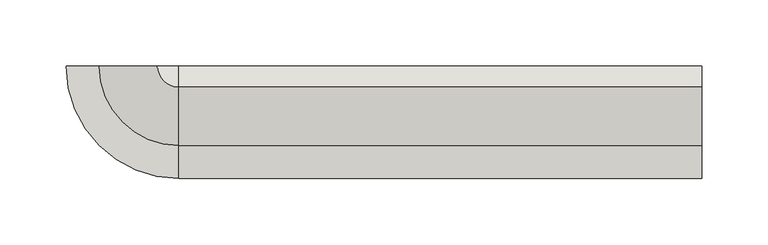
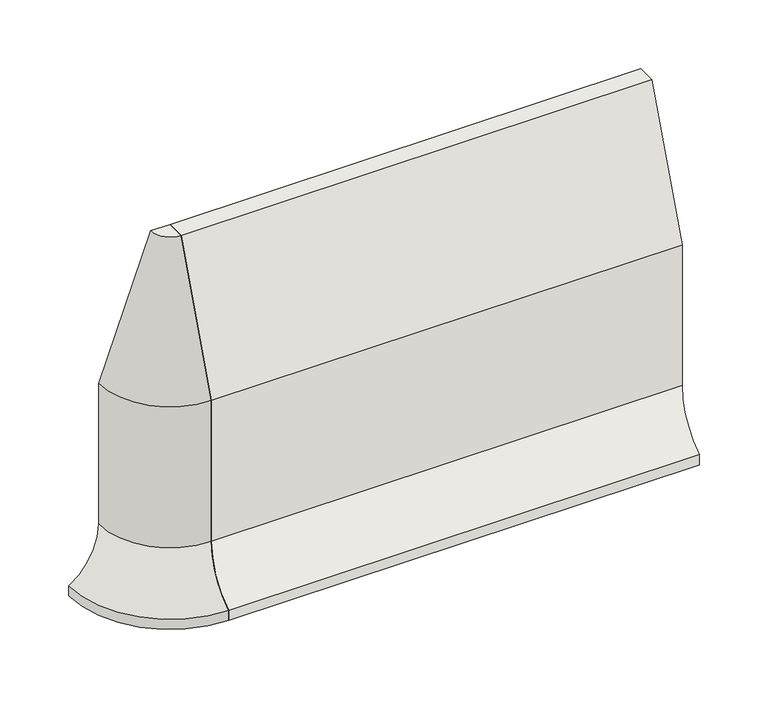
"""IFC4 building model written with IfcOpenShell, lengths in millimetres: wall geometry, GM_PC_UN_ACO kerb PB outside corner_ACO : PB H300 plain."""

from ifc_helpers import new_model, si_unit, frame, origin, place, context, project, spatial, polyline, circle_curve, source, transform, mapped, element, save
from ifc_brep_helpers import plane_surface, cylinder_surface, revolved_surface, extruded_surface, spline_curve, advanced_brep


def wall_682b4a6c(model_context):
    return source(origin(), model_context, "Body", "AdvancedBrep", [
        advanced_brep(
        [(0.0, -85.0, 8.9329844), (0.0, -60.02016, 54.9904169), (0.0, -60.02016, 180.0038512), (0.0, -16.0766274, 300.0008401), (0.0, 0.0, 300.0008401), (0.0, 0.0, -0.0124899), (0.0, -85.0, -0.0124899), (395.0, -85.0, 8.9329844), (395.0, -85.0, -0.0124899), (395.0, 0.0, -0.0124899), (395.0, 0.0, 300.0008401), (395.0, -16.0766274, 300.0008401), (395.0, -60.02016, 180.0038512), (395.0, -60.02016, 54.9904169)],
        [
            (0, 1, spline_curve(3, [(0.0, -85.0, 8.9329844), (0.0, -69.4194957, 19.0724445), (0.0, -60.0210198, 36.401179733), (0.0, -60.02016, 54.9904169)], [4, 4], [0.0, 1.0])),
            (1, 2),
            (2, 3),
            (3, 4),
            (4, 5),
            (5, 6),
            (6, 0),
            (7, 8),
            (8, 9),
            (9, 10),
            (10, 11),
            (11, 12),
            (12, 13),
            (13, 7, spline_curve(3, [(395.0, -60.02016, 54.9904169), (395.0, -60.0210198, 36.401179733), (395.0, -69.4194957, 19.0724445), (395.0, -85.0, 8.9329844)], [4, 4], [0.0, 1.0])),
            (0, 7),
            (13, 1),
            (12, 2),
            (11, 3),
            (10, 4),
            (9, 5),
            (8, 6),
        ],
        [
            plane_surface(frame((0.0, 0.0, 0.0), z_axis=(-1.0, 0.0, 0.0), x_axis=(0.0, 0.0, 1.0))),
            plane_surface(frame((395.0, 0.0, 0.0), z_axis=(1.0, 0.0, 0.0), x_axis=(0.0, 0.0, 1.0))),
            extruded_surface(spline_curve(3, [(395.0, -85.0, 8.9329844), (395.0, -69.4194957, 19.0724445), (395.0, -60.0210198, 36.401179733), (395.0, -60.02016, 54.9904169)], [4, 4], [0.0, 1.0]), (-395.0, 0.0, 0.0), 395.0),
            plane_surface(frame((0.0, -60.02016, 54.9904169), z_axis=(0.0, -1.0, 0.0), x_axis=(1.0, 0.0, 0.0))),
            plane_surface(frame((0.0, -60.02016, 180.0038512), z_axis=(0.0, -0.9390162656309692, 0.34387272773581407), x_axis=(1.0, 0.0, 0.0))),
            plane_surface(frame((0.0, -16.0766274, 300.0008401), z_axis=(0.0, 0.0, 1.0), x_axis=(1.0, 0.0, 0.0))),
            plane_surface(frame((0.0, 0.0, 300.0008401), z_axis=(0.0, 1.0, 0.0), x_axis=(1.0, 0.0, 0.0))),
            plane_surface(frame((0.0, 0.0, -0.0124899), z_axis=(0.0, 0.0, -1.0), x_axis=(1.0, 0.0, 0.0))),
            plane_surface(frame((0.0, -85.0, -0.0124899), z_axis=(0.0, -1.0, 0.0), x_axis=(1.0, 0.0, 0.0))),
        ],
        [
            (0, [[1, 2, 3, 4, 5, 6, 7]]),
            (1, [[8, 9, 10, 11, 12, 13, 14]]),
            (2, [[-1, 15, -14, 16]]),
            (3, [[-2, -16, -13, 17]]),
            (4, [[-3, -17, -12, 18]]),
            (5, [[-4, -18, -11, 19]]),
            (6, [[-5, -19, -10, 20]]),
            (7, [[-6, -20, -9, 21]]),
            (8, [[-7, -21, -8, -15]]),
        ],
    ),
        advanced_brep(
        [(-85.0, 0.0, 8.9329844), (-60.02016, 0.0, 54.9904169), (-60.02016, 0.0, 180.0038512), (-16.0766274, 0.0, 300.0), (0.0, 0.0, 300.0), (0.0, 0.0, 0.0), (-85.0, 0.0, 0.0), (0.0, -85.0, 8.9329844), (0.0, -85.0, 0.0), (0.0, -16.0766274, 300.0), (0.0, -60.02016, 180.0038512), (0.0, -60.02016, 54.9904169)],
        [
            (0, 1, spline_curve(3, [(-85.0, 0.0, 8.9329844), (-69.4194957, 0.0, 19.0724445), (-60.0210198, 0.0, 36.401179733), (-60.02016, 0.0, 54.9904169)], [4, 4], [0.0, 1.0])),
            (1, 2),
            (2, 3),
            (3, 4),
            (4, 5),
            (5, 6),
            (6, 0),
            (7, 8),
            (8, 5),
            (4, 9),
            (9, 10),
            (10, 11),
            (11, 7, spline_curve(3, [(0.0, -60.02016, 54.9904169), (0.0, -60.0210198, 36.401179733), (0.0, -69.4194957, 19.0724445), (0.0, -85.0, 8.9329844)], [4, 4], [0.0, 1.0])),
            (11, 1, circle_curve(frame((0.0, 0.0, 54.9904169), z_axis=(0.0, 0.0, -1.0), x_axis=(-1.0000000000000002, 0.0, 0.0)), 60.02016)),
            (0, 7, circle_curve(frame((0.0, 0.0, 8.9329844), z_axis=(0.0, 0.0, 1.0), x_axis=(-1.0000000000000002, 0.0, 0.0)), 85.0)),
            (10, 2, circle_curve(frame((0.0, 0.0, 180.0038512), z_axis=(0.0, 0.0, -1.0), x_axis=(-1.0000000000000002, 0.0, 0.0)), 60.02016)),
            (9, 3, circle_curve(frame((0.0, 0.0, 300.0), z_axis=(0.0, 0.0, -1.0), x_axis=(-1.0000000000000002, 0.0, 0.0)), 16.0766274)),
            (8, 6, circle_curve(frame((0.0, 0.0, 0.0), z_axis=(0.0, 0.0, -1.0), x_axis=(-1.0000000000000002, 0.0, 0.0)), 85.0)),
        ],
        [
            plane_surface(frame((0.0, 0.0, 779.9991599), z_axis=(0.0, 1.0, 0.0), x_axis=(-1.0, 0.0, 0.0))),
            plane_surface(frame((0.0, 0.0, 779.9991599), z_axis=(1.0, 0.0, 0.0), x_axis=(0.0, -1.0, 0.0))),
            revolved_surface(spline_curve(3, [(-85.0, 0.0, 8.9329844), (-69.4194957, 0.0, 19.0724445), (-60.0210198, 0.0, 36.401179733), (-60.02016, 0.0, 54.9904169)], [4, 4], [0.0, 1.0]), (0.0, 0.0, 779.9991599), (0.0, 0.0, 1.0)),
            cylinder_surface(frame((0.0, 0.0, 779.9991599), z_axis=(0.0, 0.0, 1.0), x_axis=(-1.0000000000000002, 0.0, 0.0)), 60.02016),
            revolved_surface(polyline([(-60.02016, 0.0, 180.0038512), (-16.0766274, 0.0, 300.0)]), (0.0, 0.0, 779.9991599), (0.0, 0.0, 1.0)),
            plane_surface(frame((0.0, 0.0, 300.0), z_axis=(0.0, 0.0, 1.0), x_axis=(-1.0, 0.0, 0.0))),
            plane_surface(frame((0.0, 0.0, 0.0), z_axis=(0.0, 0.0, -1.0), x_axis=(-1.0, 0.0, 0.0))),
            cylinder_surface(frame((0.0, 0.0, 779.9991599), z_axis=(0.0, 0.0, 1.0), x_axis=(-1.0000000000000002, 0.0, 0.0)), 85.0),
        ],
        [
            (0, [[1, 2, 3, 4, 5, 6, 7]]),
            (1, [[8, 9, -5, 10, 11, 12, 13]]),
            (2, [[14, -1, 15, -13]]),
            (3, [[16, -2, -14, -12]]),
            (4, [[17, -3, -16, -11]]),
            (5, [[-4, -17, -10]]),
            (6, [[18, -6, -9]]),
            (7, [[-15, -7, -18, -8]]),
        ],
    ),
    ])


if __name__ == "__main__":
    model = new_model("IFC4")
    model_context = context("Model", 3, world=origin())
    ifc_project = project(units=[si_unit("LENGTHUNIT", "METRE", prefix="MILLI")], contexts=[model_context])
    site = spatial("IfcSite", under=ifc_project)
    building = spatial("IfcBuilding", under=site)
    placement = place(None, origin())
    wall_shape = wall_682b4a6c(model_context)
    element("IfcWall", 1, ObjectType="GM_PC_UN_ACO kerb PB outside corner_ACO : PB H300 plain", at=placement, inside=building, context=model_context, shape_type="MappedRepresentation", body=[
        mapped(wall_shape, transform((0.0, 0.0, 0.0), x_axis=(1.0, 0.0, 0.0), y_axis=(0.0, 1.0, 0.0), z_axis=(0.0, 0.0, 1.0))),
    ])
    save(model, "model.ifc")
